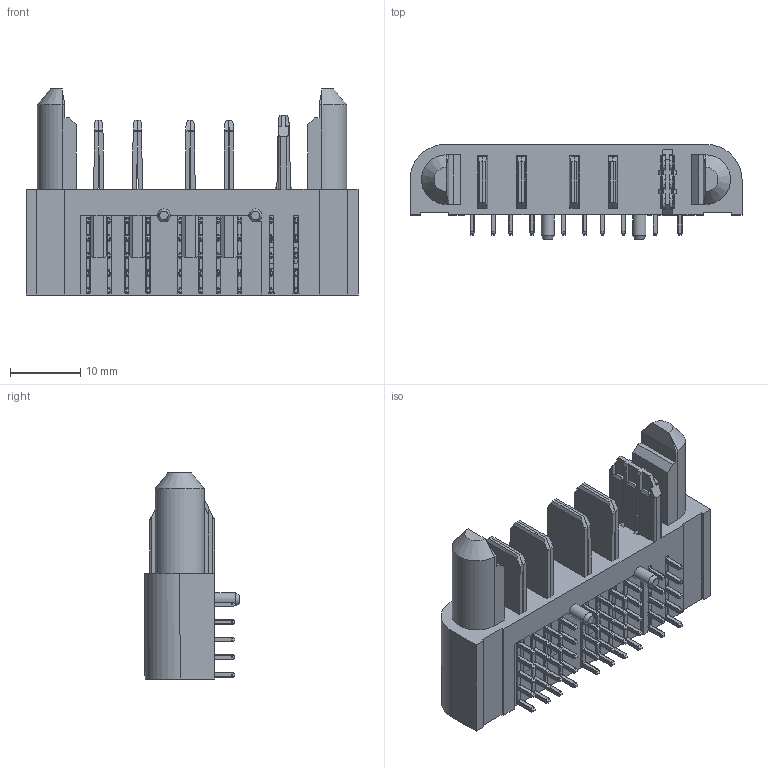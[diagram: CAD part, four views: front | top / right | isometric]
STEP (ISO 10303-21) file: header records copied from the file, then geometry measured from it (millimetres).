
FILE_DESCRIPTION(/* description */ (''),/* implementation_level */ '2;1');
FILE_NAME(/* name */ 'PDC01100F0003(A1)石头档.stp',/* time_stamp */ '2025-05-08T09:18:37+08:00',/* author */ (''),/* organization */ (''),/* preprocessor_version */ 'ST-DEVELOPER v16.7',/* originating_system */ 'SIEMENS PLM Software NX 1946',/* authorisation */ '');
FILE_SCHEMA (('AUTOMOTIVE_DESIGN { 1 0 10303 214 3 1 1 1 }'));
Length unit declared in the file: millimetre
Products named in the file (1): PDC01＋02信号优化Ｘ0
Bounding box: 47.14 x 13.5 x 29.25 mm (x, y, z)
Volume: 8103.7 mm3; surface area: 5267.4 mm2
Topology: 1 solids, 1 shells, 1911 faces, 4945 edges, 3049 vertices
Faces by surface type: plane 778, cylinder 774, torus 340, extrusion 15, cone 4
Full cylindrical faces by diameter (mm): 1.85 x2
Entity records: 59163 total; most frequent: CARTESIAN_POINT 12622, ORIENTED_EDGE 9878, DIRECTION 9737, EDGE_CURVE 4939, AXIS2_PLACEMENT_3D 3521, VERTEX_POINT 3055, VECTOR 2695, LINE 2680
